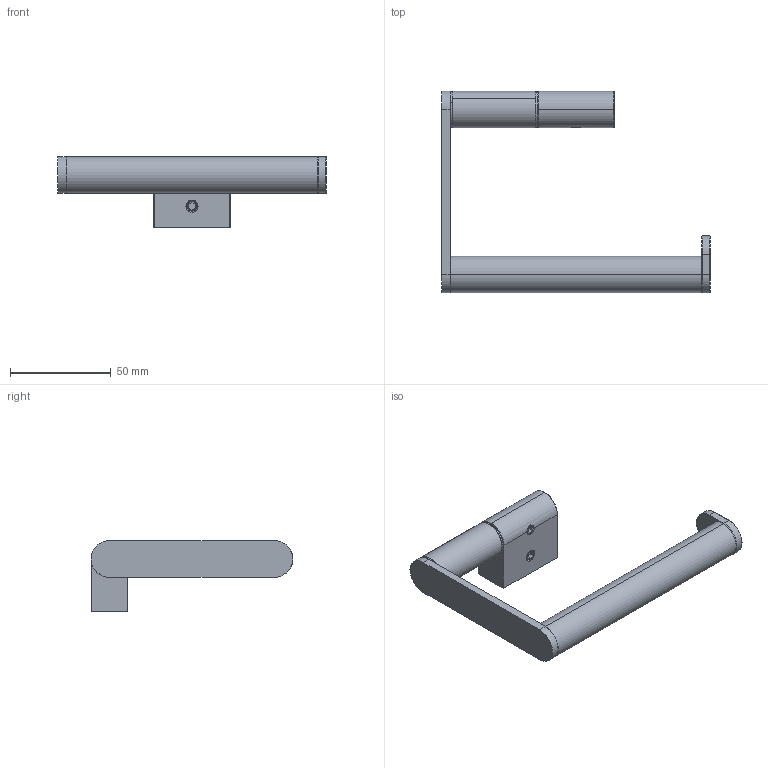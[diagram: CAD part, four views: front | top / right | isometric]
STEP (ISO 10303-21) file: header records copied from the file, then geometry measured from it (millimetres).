
FILE_DESCRIPTION (( 'STEP AP203' ), '1' );
FILE_NAME ('28043A-00-00.STEP', '2022-07-07T06:27:32', ( 'Windows User' ), ( 'P R C' ), 'SwSTEP 2.0', 'SolidWorks 2015', '' );
FILE_SCHEMA (( 'CONFIG_CONTROL_DESIGN' ));
Length unit declared in the file: millimetre
Products named in the file (1): 28043A-00-00
Bounding box: 133 x 100.05 x 35.1 mm (x, y, z)
Surface area: 22653.3 mm2 (no closed solid volume)
Topology: 0 solids, 10 shells, 145 faces, 451 edges, 318 vertices
Faces by surface type: cylinder 56, plane 51, bspline 24, cone 8, torus 6
Entity records: 5287 total; most frequent: CARTESIAN_POINT 1469, DIRECTION 767, ORIENTED_EDGE 734, EDGE_CURVE 451, VERTEX_POINT 318, AXIS2_PLACEMENT_3D 276, LINE 215, VECTOR 215
